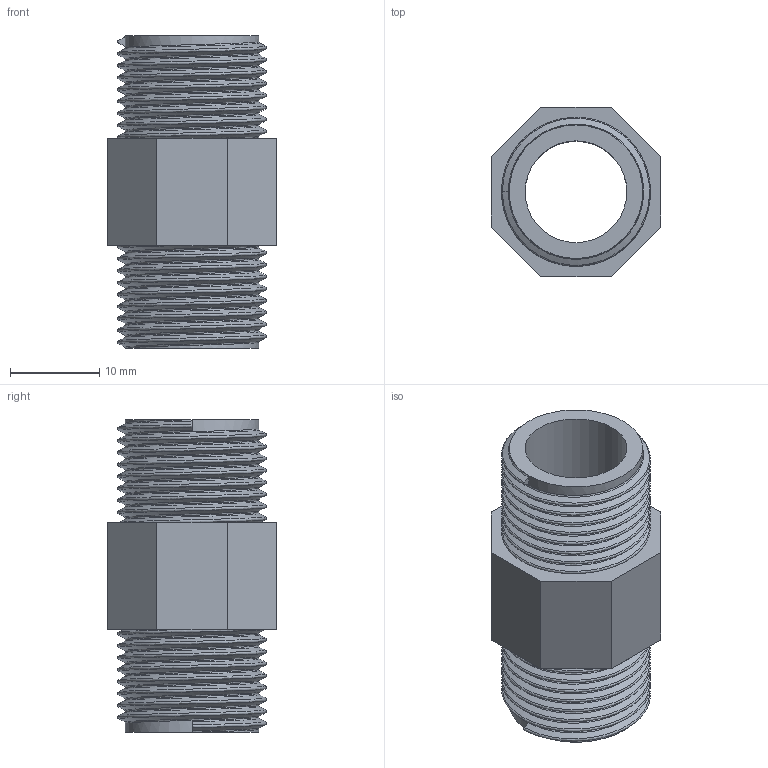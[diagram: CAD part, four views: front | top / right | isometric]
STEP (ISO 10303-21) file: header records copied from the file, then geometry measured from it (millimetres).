
FILE_DESCRIPTION(/* description */ ('PVC-U nipplo filettato BSP'),/* implementation_level */ '2;1');
FILE_NAME(/* name */ 'C:\Users\POLYPIPE\Desktop\DATASET INVENTOR\LIBRERIA EFFAST\RACCORDI 3DxWEB\RER\3D_RERNIE\3D_RERNIE016A.stp',/* time_stamp */ '2018-01-19T16:42:35+01:00',/* author */ ('POLYPIPE'),/* organization */ ('Polypipe Italia s.r.l.'),/* preprocessor_version */ 'ST-DEVELOPER v16.1',/* originating_system */ 'Autodesk Inventor 2016',/* authorisation */ '');
FILE_SCHEMA (('CONFIG_CONTROL_DESIGN'));
Length unit declared in the file: millimetre
Products named in the file (1): 3D_RERNIE
Bounding box: 19 x 19 x 35 mm (x, y, z)
Volume: 4508.3 mm3; surface area: 4264.6 mm2
Topology: 1 solids, 1 shells, 27 faces, 63 edges, 40 vertices
Faces by surface type: plane 14, bspline 10, cylinder 3
Full cylindrical faces by diameter (mm): 11.4 x1, 14.95 x2
Entity records: 7212 total; most frequent: CARTESIAN_POINT 6634, ORIENTED_EDGE 124, DIRECTION 86, EDGE_CURVE 62, VERTEX_POINT 40, EDGE_LOOP 32, LINE 30, VECTOR 30
